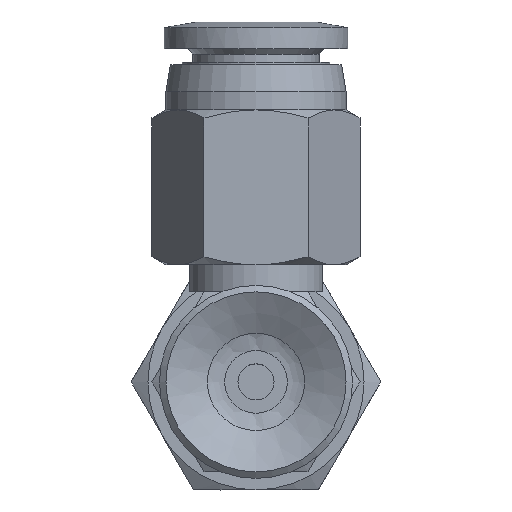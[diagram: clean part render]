
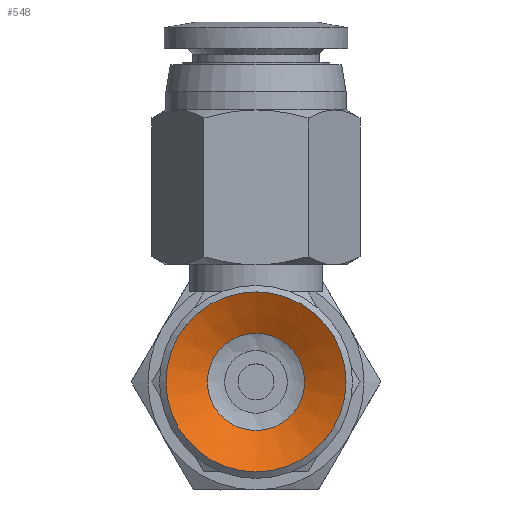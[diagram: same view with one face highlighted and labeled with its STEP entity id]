
A CAD part, front view. The second image highlights one B-rep face of the part: STEP entity #548.
In plain terms, the highlighted conical face has half-angle 61.39 degrees and reference radius 2.25 mm.
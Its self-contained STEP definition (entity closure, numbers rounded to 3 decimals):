
#548=ADVANCED_FACE('',(#842,#843),#844,.F.);
#842=FACE_BOUND('',#1235,.T.);
#843=FACE_OUTER_BOUND('',#1236,.T.);
#844=CONICAL_SURFACE('',#1237,2.25,1.071);
#1235=EDGE_LOOP('',(#2254));
#1236=EDGE_LOOP('',(#2255));
#1237=AXIS2_PLACEMENT_3D('',#2256,#2257,#2258);
#2254=ORIENTED_EDGE('',*,*,#2793,.T.);
#2255=ORIENTED_EDGE('',*,*,#2794,.T.);
#2256=CARTESIAN_POINT('',(0.0,1.5,0.0));
#2257=DIRECTION('',(-0.0,-1.0,0.));
#2258=DIRECTION('',(0.0,0.,-1.0));
#2793=EDGE_CURVE('',#3174,#3174,#3175,.T.);
#2794=EDGE_CURVE('',#3176,#3176,#3177,.T.);
#3174=VERTEX_POINT('',#4012);
#3175=CIRCLE('',#4013,2.698);
#3176=VERTEX_POINT('',#4014);
#3177=CIRCLE('',#4015,5.);
#4012=CARTESIAN_POINT('',(0.0,1.256,-2.698));
#4013=AXIS2_PLACEMENT_3D('',#4756,#4757,#4758);
#4014=CARTESIAN_POINT('',(0.0,0.,-5.));
#4015=AXIS2_PLACEMENT_3D('',#4759,#4760,#4761);
#4756=CARTESIAN_POINT('',(0.0,1.256,0.0));
#4757=DIRECTION('',(0.0,1.0,0.));
#4758=DIRECTION('',(0.0,0.,-1.0));
#4759=CARTESIAN_POINT('',(0.0,0.0,0.0));
#4760=DIRECTION('',(0.0,-1.0,0.));
#4761=DIRECTION('',(0.0,0.,-1.0));
